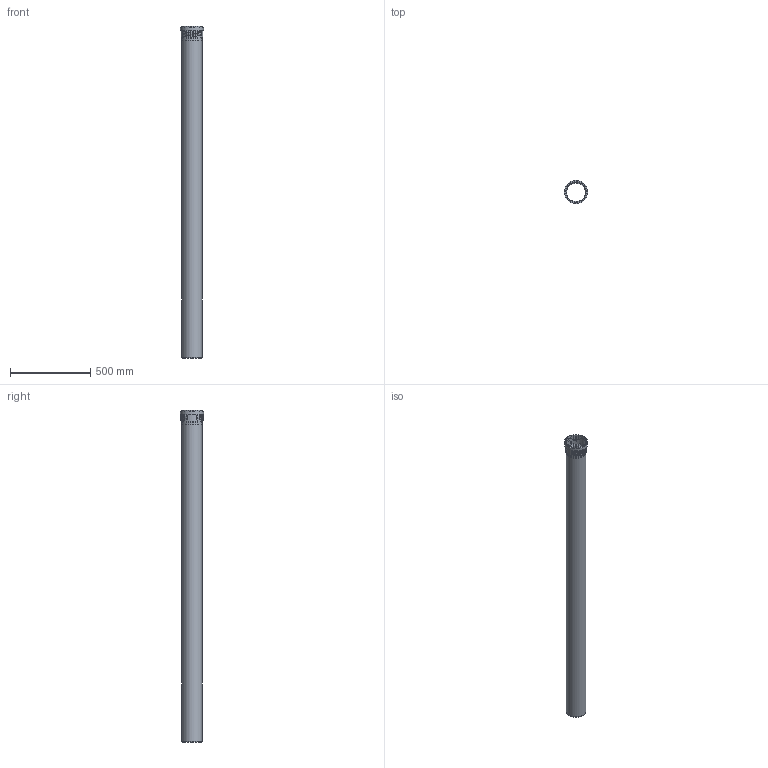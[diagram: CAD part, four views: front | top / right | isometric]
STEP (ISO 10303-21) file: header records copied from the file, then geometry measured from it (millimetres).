
FILE_DESCRIPTION(/* description */ (''),/* implementation_level */ '2;1');
FILE_NAME(/* name */ 'Z:\Geberit\Export\NewStep\390606.stp',/* time_stamp */ '2014-04-02T08:15:31+02:00',/* author */ ('ML'),/* organization */ (''),/* preprocessor_version */ 'ST-DEVELOPER v15.2',/* originating_system */ 'Autodesk Inventor 2014',/* authorisation */ '');
FILE_SCHEMA (('AUTOMOTIVE_DESIGN { 1 0 10303 214 3 1 1 }'));
Length unit declared in the file: millimetre
Products named in the file (3): 861671; 861586ohne; 390606
Bounding box: 144.95 x 144.95 x 2073.9 mm (x, y, z)
Volume: 3361339.4 mm3; surface area: 1609268.4 mm2
Topology: 2 solids, 2 shells, 47 faces, 104 edges, 71 vertices
Faces by surface type: torus 24, cylinder 11, plane 10, cone 2
Full cylindrical faces by diameter (mm): 116.8 x2, 125.2 x2, 126.2 x2, 130.4 x1, 134.6 x2, 136.55 x1, 144.95 x1
Entity records: 2003 total; most frequent: CARTESIAN_POINT 962, DIRECTION 182, ORIENTED_EDGE 174, AXIS2_PLACEMENT_3D 91, EDGE_CURVE 87, EDGE_LOOP 78, VERTEX_POINT 71, STYLED_ITEM 49
